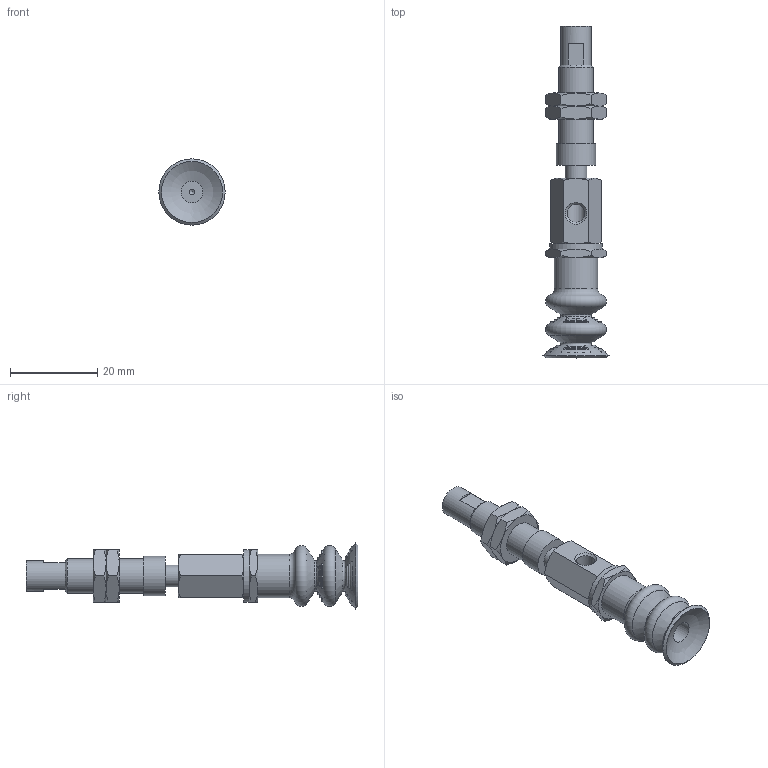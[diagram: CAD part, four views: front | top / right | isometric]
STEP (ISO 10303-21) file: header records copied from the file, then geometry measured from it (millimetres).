
FILE_DESCRIPTION(('STEP AP203'),'1');
FILE_NAME('.stp','2025-04-03T06:47:34',(' '),(' '),'Spatial InterOp 3D',' ',' ');
FILE_SCHEMA(('CONFIG_CONTROL_DESIGN'));
Length unit declared in the file: millimetre
Products named in the file (7): BNABPCYS-15-3-※; Adapter_napc-15-T; Connector_s-15-3; Nut napc_s-15-3; NAPCTS-15-3-FBODY; NAPCTS-15-3-MBODY; BPCG-15-※
Assembly tree (7 placements, depth 2):
  BNABPCYS-15-3-※
    Adapter_napc-15-T
    Connector_s-15-3
    Nut napc_s-15-3  x2
    NAPCTS-15-3-FBODY
    NAPCTS-15-3-MBODY
    BPCG-15-※
Bounding box: 15.2 x 76.2 x 15.2 mm (x, y, z)
Volume: 5462.9 mm3; surface area: 5614.1 mm2
Topology: 7 solids, 7 shells, 237 faces, 700 edges, 450 vertices
Faces by surface type: cone 68, plane 58, sphere 58, torus 34, cylinder 19
Full cylindrical faces by diameter (mm): 1.25 x1, 4.134 x3, 5 x8, 7 x1, 7.188 x2, 8 x1, 9 x1, 10 x1, 12 x1
Entity records: 6763 total; most frequent: CARTESIAN_POINT 1930, DIRECTION 980, ORIENTED_EDGE 830, AXIS2_PLACEMENT_3D 467, EDGE_CURVE 415, EDGE_LOOP 302, VERTEX_POINT 292, CIRCLE 243
